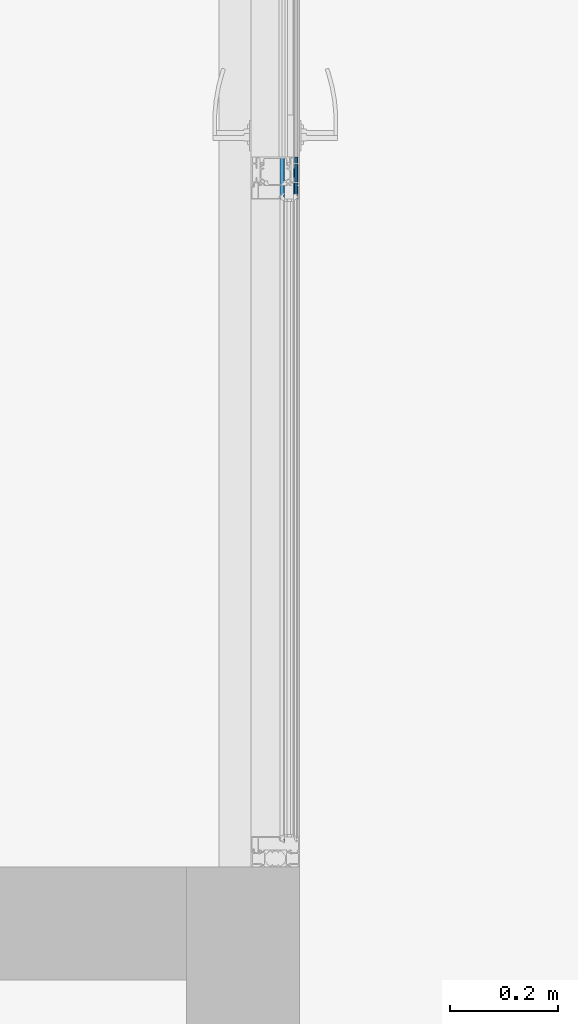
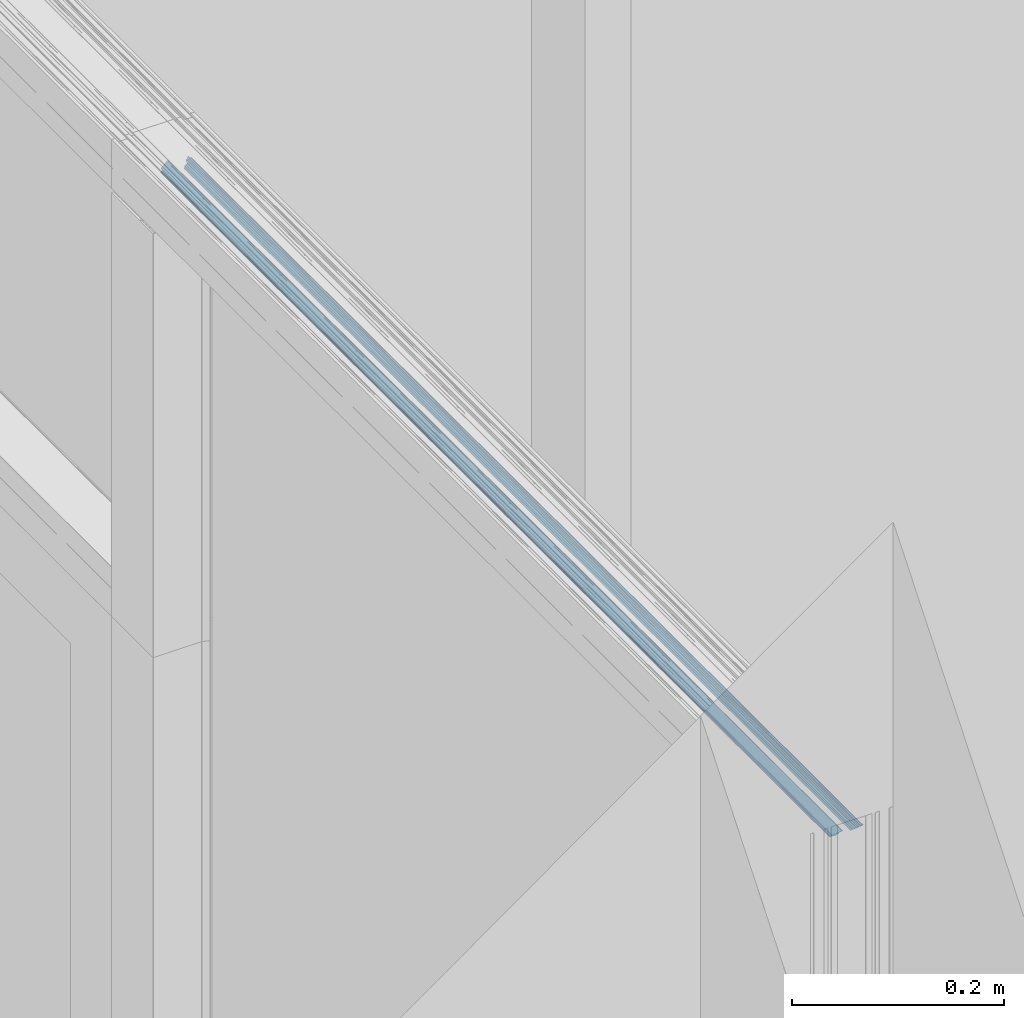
# One storey, part 39 of 62: 1 building element part, 2 elements without a shape of their own.
"""IFC2X3 building model written with IfcOpenShell, lengths in millimetres."""

from ifc_helpers import new_model, entity, si_unit, converted_unit, derived_unit, money_unit, direction, frame, origin_with_axes, place, context, subcontext, project, spatial, faceted_brep, material, type_object, element, aggregate, save


model = new_model("IFC2X3")

# Units and contexts
model_context = context("Model", 3, precision=0.01, world=origin_with_axes(), true_north=direction((0.0, 1.0)))
body_context = subcontext(model_context, "Body", "Model", "MODEL_VIEW")
ifc_project = project(units=[si_unit("LENGTHUNIT", "METRE", prefix="MILLI"), si_unit("AREAUNIT", "SQUARE_METRE"), si_unit("VOLUMEUNIT", "CUBIC_METRE"), converted_unit("PLANEANGLEUNIT", "DEGREE", entity("IfcPlaneAngleMeasure", 0.0174532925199), si_unit("PLANEANGLEUNIT", "RADIAN"), dimensions=[0, 0, 0, 0, 0, 0, 0]), si_unit("SOLIDANGLEUNIT", "STERADIAN"), money_unit("EUR"), converted_unit("TIMEUNIT", "Year", entity("IfcTimeMeasure", 31556926.0), si_unit("TIMEUNIT", "SECOND"), dimensions=[0, 0, 1, 0, 0, 0, 0]), si_unit("MASSUNIT", "GRAM", prefix="KILO"), si_unit("THERMODYNAMICTEMPERATUREUNIT", "DEGREE_CELSIUS"), si_unit("LUMINOUSINTENSITYUNIT", "LUMEN"), si_unit("ENERGYUNIT", "JOULE", prefix="MEGA"), derived_unit("THERMALCONDUCTANCEUNIT", [(si_unit("POWERUNIT", "WATT"), 1), (si_unit("LENGTHUNIT", "METRE"), -1), (si_unit("THERMODYNAMICTEMPERATUREUNIT", "KELVIN"), -1)]), derived_unit("SPECIFICHEATCAPACITYUNIT", [(si_unit("ENERGYUNIT", "JOULE"), 1), (si_unit("MASSUNIT", "GRAM", prefix="KILO"), -1), (si_unit("THERMODYNAMICTEMPERATUREUNIT", "KELVIN"), -1)]), derived_unit("MASSDENSITYUNIT", [(si_unit("MASSUNIT", "GRAM", prefix="KILO"), 1), (si_unit("VOLUMEUNIT", "CUBIC_METRE"), -1)])], contexts=[model_context])

# Site, building, storey
site_placement = place(None, origin_with_axes())
site = spatial("IfcSite", under=ifc_project, at=site_placement, Name="Puškini 31, Narva", CompositionType="ELEMENT")
building_placement = place(site_placement, origin_with_axes())
building = spatial("IfcBuilding", under=site, at=building_placement, Name="Narva Riigigümnaasium", CompositionType="ELEMENT")
storey_placement = place(building_placement, frame((0.0, 0.0, 660.0), z_axis=(0.0, 0.0, 1.0), x_axis=(1.0, 0.0, 0.0)))
storey = spatial("IfcBuildingStorey", under=building, at=storey_placement, Name="2.korrus +0.66", CompositionType="ELEMENT", Elevation=660.0)

# Curtain wall, member, building element part
curtain_wall_type = type_object("IfcCurtainWallType", Name="Curtain Wall Type", PredefinedType="NOTDEFINED")
curtain_wall_placement = place(storey_placement, frame((34855.0128096, 223200.000065, -2.45869393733e-05), z_axis=(0.0, 0.0, 1.0), x_axis=(1.0, 0.0, 0.0)))
curtain_wall = element("IfcCurtainWall", 1, at=curtain_wall_placement, inside=storey, type_object=curtain_wall_type, Name="G-SKLF-50")
member_type = type_object("IfcMemberType", Name="61 x 45", PredefinedType="MULLION")
member_placement = place(curtain_wall_placement, frame((-0.00823391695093, -1920.01202274, 2950.00000756), z_axis=(4.28847155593e-06, 0.999999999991, 1.29025933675e-08), x_axis=(0.0, 1.29025933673e-08, -1.0)))
member = element("IfcMember", 2, at=member_placement, type_object=member_type, Name="G-SKLF-54-raam", ObjectType="MULLION")
aggregate(curtain_wall, [member])
ifc_material = material(Name="Membraan - Veekindel")
building_element_part_placement = place(member_placement, origin_with_axes())
building_element_part = element("IfcBuildingElementPart", 3, at=building_element_part_placement, material=ifc_material, Name="Membraan - Veekindel", context=body_context, shape_type="Brep", body=[
    faceted_brep([(59.5800230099, -34.737947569, 59.5800207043), (61.0413392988, -34.3890442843, 61.0413369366), (61.0413555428, -34.3890442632, 1320.01202237), (59.5800392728, -34.7379475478, 1320.01202239), (58.475503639, -35.3628499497, 58.4755013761), (57.9693621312, -36.5265882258, 57.9693598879), (57.7000331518, -39.5999584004, 57.7000309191), (57.6464378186, -39.7999717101, 57.6464355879), (57.5000168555, -39.9463912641, 57.5000146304), (57.3000030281, -39.9999846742, 57.3000008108), (57.3000030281, -39.1999494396, 57.3000008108), (55.3000217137, -39.1999606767, 55.3000195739), (55.2330344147, -38.9499606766, 55.2330322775), (55.0500217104, -38.7669479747, 55.0500195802), (54.8000217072, -38.6999606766, 54.8000195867), (54.5500217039, -38.7669479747, 54.550019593), (54.3670089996, -38.9499606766, 54.3670068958), (54.3000217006, -39.1999606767, 54.3000195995), (54.3000217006, -40.4999366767, 54.3000195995), (54.3402140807, -40.6499366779, 54.340211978), (54.4500217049, -40.7597442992, 54.450019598), (54.6000217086, -40.7999366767, 54.6000195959), (54.7000180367, -40.7999366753, 54.70001592), (54.8666758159, -40.8504837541, 54.8666736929), (54.9771760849, -40.9850924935, 54.9771739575), (54.9942843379, -41.1584047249, 54.9942822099), (54.9122357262, -41.3120206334, 54.9122336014), (53.8716113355, -42.3533776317, 53.871609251), (53.7093565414, -42.4618547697, 53.7093544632), (53.5179335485, -42.4999486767, 53.5179314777), (51.8818850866, -42.4999486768, 51.8818830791), (51.6904317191, -42.4618421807, 51.6904297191), (51.5281608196, -42.3533311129, 51.5281588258), (50.4878089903, -41.3119729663, 50.4878070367), (50.4057856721, -41.1583618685, 50.4057837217), (50.4229065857, -40.9850671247, 50.4229046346), (50.5334032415, -40.8504763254, 50.5334012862), (50.7000463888, -40.7999366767, 50.700044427), (50.8000406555, -40.7999366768, 50.8000386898), (50.9500406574, -40.7597442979, 50.9500386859), (51.0598482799, -40.6499366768, 51.0598463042), (51.1000406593, -40.4999366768, 51.1000386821), (51.1000406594, -39.1999550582, 51.1000386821), (51.0330547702, -38.949954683, 51.0330527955), (50.8500431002, -38.7669409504, 50.8500411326), (50.6000434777, -38.6999522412, 50.6000415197), (50.3500430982, -38.7669381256, 50.35004115), (50.1670293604, -38.9499497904, 50.1670274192), (50.1000406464, -39.1999494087, 50.1000387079), (48.7206533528, -39.1999494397, 48.7206514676), (48.7206533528, -38.0023809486, 48.7206514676), (48.7876406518, -37.7523809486, 48.7876387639), (48.970653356, -37.5693682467, 48.9706514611), (49.2206533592, -37.5023809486, 49.2206514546), (50.3319759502, -37.5023809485, 50.3319740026), (50.5819759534, -37.4353936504, 50.5819739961), (50.7649886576, -37.2523809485, 50.7649866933), (51.1691338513, -36.5523809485, 51.1691318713), (51.3521465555, -36.3693682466, 51.3521445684), (51.6021465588, -36.3023809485, 51.602144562), (53.8391564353, -36.3023809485, 53.8391543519), (54.0891564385, -36.3693682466, 54.0891543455), (54.2721691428, -36.5523809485, 54.2721670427), (54.6763143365, -37.2523809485, 54.6763122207), (54.8593270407, -37.4353936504, 54.8593249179), (55.1093270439, -37.5023809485, 55.1093249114), (55.7607452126, -37.5023809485, 55.7607430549), (55.9795997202, -37.4519392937, 55.979597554), (56.1542966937, -37.3107917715, 56.1542945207), (56.2495881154, -37.1074172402, 56.2495859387), (56.9567952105, -35.6067920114, 56.9567930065), (58.234650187, -34.5489145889, 58.2346479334), (59.8409265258, -34.1343131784, 59.8409242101), (60.7381543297, -33.9217644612, 60.7381519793), (61.0108949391, -33.784859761, 61.010892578), (61.1423172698, -33.9681748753, 61.1423149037), (61.1536685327, -34.1934467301, 61.1536661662), (53.5000346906, -40.7999553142, 53.5000326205), (53.4330487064, -39.4499317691, 53.4330466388), (53.2500395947, -39.2669226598, 53.2500375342), (53.0000444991, -39.1999366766, 53.0000424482), (52.400017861, -39.1999366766, 52.4000158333), (52.1500227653, -39.2669226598, 52.1500207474), (51.9670136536, -39.449931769, 51.9670116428), (51.9000276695, -39.6999268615, 51.9000256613), (51.9000276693, -40.7999553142, 51.900025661), (51.9670124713, -41.0499459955, 51.9670104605), (52.1500183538, -41.2329518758, 52.1500163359), (52.4000090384, -41.2999366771, 52.4000070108), (53.0000533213, -41.2999366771, 53.0000512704), (53.2500440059, -41.2329518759, 53.2500419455), (53.4330498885, -41.0499459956, 53.433047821), (61.1536847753, -34.1934467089, 1320.01202237), (61.1423335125, -33.9681748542, 1320.01202237), (61.0109111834, -33.7848597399, 1320.01202237), (60.7381705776, -33.9217644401, 1320.01202237), (59.8409427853, -34.1343131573, 1320.01202238), (58.2346664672, -34.5489145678, 1320.01202241), (56.9568115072, -35.6067919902, 1320.01202242), (56.2496044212, -37.107417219, 1320.01202243), (56.1543130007, -37.3107917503, 1320.01202243), (55.9796160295, -37.4519392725, 1320.01202243), (55.7607615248, -37.5023809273, 1320.01202244), (55.1093433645, -37.5023809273, 1320.01202245), (54.8593433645, -37.4353936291, 1320.01202245), (54.6763306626, -37.2523809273, 1320.01202245), (54.2721854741, -36.5523809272, 1320.01202246), (54.0891727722, -36.3693682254, 1320.01202246), (53.8391727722, -36.3023809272, 1320.01202246), (51.6021629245, -36.3023809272, 1320.01202249), (51.3521629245, -36.3693682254, 1320.01202249), (51.1691502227, -36.5523809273, 1320.0120225), (50.7650050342, -37.2523809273, 1320.0120225), (50.5819923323, -37.4353936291, 1320.0120225), (50.3319923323, -37.5023809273, 1320.01202251), (49.2206697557, -37.5023809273, 1320.01202252), (48.9706697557, -37.5693682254, 1320.01202253), (48.7876570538, -37.7523809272, 1320.01202253), (48.7206697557, -38.0023809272, 1320.01202253), (48.7206697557, -39.1999494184, 1320.01202253), (50.1000570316, -39.1999493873, 1320.01202251), (50.1670457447, -38.9499497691, 1320.01202251), (50.3500594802, -38.7669381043, 1320.01202251), (50.6000598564, -38.6999522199, 1320.0120225), (50.8500594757, -38.7669409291, 1320.0120225), (51.0330711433, -38.9499546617, 1320.0120225), (51.1000570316, -39.1999550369, 1320.0120225), (51.1000570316, -40.4999366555, 1320.0120225), (51.0598646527, -40.6499366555, 1320.0120225), (50.9500570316, -40.7597442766, 1320.0120225), (50.8000570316, -40.7999366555, 1320.0120225), (50.7000627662, -40.7999366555, 1320.0120225), (50.5334196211, -40.8504763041, 1320.01202251), (50.4229229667, -40.9850671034, 1320.01202251), (50.4058020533, -41.1583618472, 1320.01202251), (50.4878253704, -41.311972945, 1320.01202251), (51.5281771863, -42.3533310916, 1320.01202249), (51.6904480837, -42.4618421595, 1320.01202249), (51.8819014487, -42.4999486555, 1320.01202249), (53.5179498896, -42.4999486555, 1320.01202247), (53.70937288, -42.4618547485, 1320.01202246), (53.871627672, -42.3533776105, 1320.01202246), (54.9122520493, -41.3120206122, 1320.01202245), (54.9943006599, -41.1584047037, 1320.01202245), (54.9771924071, -40.9850924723, 1320.01202245), (54.8666921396, -40.8504837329, 1320.01202245), (54.7000343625, -40.7999366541, 1320.01202245), (54.6000380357, -40.7999366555, 1320.01202245), (54.4500380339, -40.759744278, 1320.01202245), (54.3402304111, -40.6499366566, 1320.01202246), (54.3000380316, -40.4999366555, 1320.01202246), (54.3000380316, -39.1999606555, 1320.01202246), (54.3670253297, -38.9499606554, 1320.01202246), (54.5500380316, -38.7669479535, 1320.01202245), (54.8000380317, -38.6999606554, 1320.01202245), (55.0500380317, -38.7669479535, 1320.01202245), (55.2330507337, -38.9499606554, 1320.01202244), (55.3000380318, -39.1999606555, 1320.01202244), (57.3000193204, -39.1999494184, 1320.01202242), (57.3000193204, -39.999984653, 1320.01202242), (57.5000331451, -39.9463912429, 1320.01202242), (57.6464541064, -39.7999716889, 1320.01202241), (57.7000494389, -39.5999583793, 1320.01202241), (57.9693784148, -36.5265882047, 1320.01202241), (58.4755199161, -35.3628499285, 1320.0120224), (53.5000510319, -40.7999552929, 1320.01202247), (53.4330662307, -41.0499459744, 1320.01202247), (53.2500603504, -41.2329518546, 1320.01202247), (53.000069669, -41.2999366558, 1320.01202247), (52.4000253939, -41.2999366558, 1320.01202248), (52.1500347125, -41.2329518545, 1320.01202248), (51.9670288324, -41.0499459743, 1320.01202249), (51.9000440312, -40.7999552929, 1320.01202249), (51.9000440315, -39.6999268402, 1320.01202249), (51.9670300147, -39.4499317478, 1320.01202249), (52.150039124, -39.2669226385, 1320.01202248), (52.4000342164, -39.1999366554, 1320.01202248), (53.0000608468, -39.1999366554, 1320.01202247), (53.2500559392, -39.2669226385, 1320.01202247), (53.4330650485, -39.4499317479, 1320.01202247)], [[[0, 1, 2, 3]], [[1, 0, 4, 5, 6, 7, 8, 9, 10, 11, 12, 13, 14, 15, 16, 17, 18, 19, 20, 21, 22, 23, 24, 25, 26, 27, 28, 29, 30, 31, 32, 33, 34, 35, 36, 37, 38, 39, 40, 41, 42, 43, 44, 45, 46, 47, 48, 49, 50, 51, 52, 53, 54, 55, 56, 57, 58, 59, 60, 61, 62, 63, 64, 65, 66, 67, 68, 69, 70, 71, 72, 73, 74, 75, 76], [77, 78, 79, 80, 81, 82, 83, 84, 85, 86, 87, 88, 89, 90, 91]], [[1, 76, 92, 2]], [[2, 92, 93, 94, 95, 96, 97, 98, 99, 100, 101, 102, 103, 104, 105, 106, 107, 108, 109, 110, 111, 112, 113, 114, 115, 116, 117, 118, 119, 120, 121, 122, 123, 124, 125, 126, 127, 128, 129, 130, 131, 132, 133, 134, 135, 136, 137, 138, 139, 140, 141, 142, 143, 144, 145, 146, 147, 148, 149, 150, 151, 152, 153, 154, 155, 156, 157, 158, 159, 160, 161, 162, 163, 164, 3], [165, 166, 167, 168, 169, 170, 171, 172, 173, 174, 175, 176, 177, 178, 179]], [[4, 0, 3, 164]], [[5, 4, 164, 163]], [[6, 5, 163, 162]], [[7, 6, 162, 161]], [[8, 7, 161, 160]], [[9, 8, 160, 159]], [[10, 9, 159, 158]], [[11, 10, 158, 157]], [[12, 11, 157, 156]], [[13, 12, 156, 155]], [[14, 13, 155, 154]], [[15, 14, 154, 153]], [[16, 15, 153, 152]], [[17, 16, 152, 151]], [[18, 17, 151, 150]], [[19, 18, 150, 149]], [[20, 19, 149, 148]], [[21, 20, 148, 147]], [[22, 21, 147, 146]], [[23, 22, 146, 145]], [[24, 23, 145, 144]], [[25, 24, 144, 143]], [[26, 25, 143, 142]], [[27, 26, 142, 141]], [[28, 27, 141, 140]], [[29, 28, 140, 139]], [[30, 29, 139, 138]], [[31, 30, 138, 137]], [[32, 31, 137, 136]], [[33, 32, 136, 135]], [[34, 33, 135, 134]], [[35, 34, 134, 133]], [[36, 35, 133, 132]], [[37, 36, 132, 131]], [[38, 37, 131, 130]], [[39, 38, 130, 129]], [[40, 39, 129, 128]], [[41, 40, 128, 127]], [[42, 41, 127, 126]], [[43, 42, 126, 125]], [[44, 43, 125, 124]], [[45, 44, 124, 123]], [[46, 45, 123, 122]], [[47, 46, 122, 121]], [[48, 47, 121, 120]], [[49, 48, 120, 119]], [[50, 49, 119, 118]], [[51, 50, 118, 117]], [[52, 51, 117, 116]], [[53, 52, 116, 115]], [[54, 53, 115, 114]], [[55, 54, 114, 113]], [[56, 55, 113, 112]], [[57, 56, 112, 111]], [[58, 57, 111, 110]], [[59, 58, 110, 109]], [[60, 59, 109, 108]], [[61, 60, 108, 107]], [[62, 61, 107, 106]], [[63, 62, 106, 105]], [[64, 63, 105, 104]], [[65, 64, 104, 103]], [[66, 65, 103, 102]], [[67, 66, 102, 101]], [[68, 67, 101, 100]], [[69, 68, 100, 99]], [[70, 69, 99, 98]], [[71, 70, 98, 97]], [[72, 71, 97, 96]], [[73, 72, 96, 95]], [[74, 73, 95, 94]], [[75, 74, 94, 93]], [[76, 75, 93, 92]], [[78, 77, 165, 179]], [[79, 78, 179, 178]], [[80, 79, 178, 177]], [[81, 80, 177, 176]], [[82, 81, 176, 175]], [[83, 82, 175, 174]], [[84, 83, 174, 173]], [[85, 84, 173, 172]], [[86, 85, 172, 171]], [[87, 86, 171, 170]], [[88, 87, 170, 169]], [[89, 88, 169, 168]], [[90, 89, 168, 167]], [[91, 90, 167, 166]], [[77, 91, 166, 165]]]),
    faceted_brep([(55.9926722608, -16.8063498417, 55.9926700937), (59.0307122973, -16.554149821, 59.0307100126), (59.0307285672, -16.5541497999, 1320.0120224), (55.9926885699, -16.8063498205, 1320.01202243), (53.7899077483, -16.6230039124, 53.7899056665), (53.1225207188, -16.3483062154, 53.1225186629), (51.5205032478, -15.009958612, 51.5205012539), (51.3011772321, -14.8998814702, 51.3011752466), (51.0558931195, -14.9074036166, 51.0558911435), (50.8437243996, -15.03071344, 50.8437224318), (50.5537001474, -15.212117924, 50.5536981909), (46.2983077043, -16.7340705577, 46.2983059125), (45.9509669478, -16.7718696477, 45.9509651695), (45.6241935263, -16.6482027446, 45.6241917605), (45.3889083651, -16.3899097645, 45.3889066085), (45.3195232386, -16.2152275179, 45.3195214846), (45.3418974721, -15.7688623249, 45.3418957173), (45.6142076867, -15.4144760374, 45.6142059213), (51.8169224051, -8.74599822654, 51.8169203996), (51.9389446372, -8.63264469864, 51.9389426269), (52.1026317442, -8.60190419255, 52.1026297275), (52.2574652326, -8.66326410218, 52.25746321), (52.3556590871, -8.79778701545, 52.3556570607), (52.7761219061, -9.95299910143, 52.7761198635), (52.8859567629, -10.0961386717, 52.8859547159), (53.058029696, -10.1503930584, 53.0580276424), (55.1123581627, -10.1503930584, 55.1123560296), (55.2731266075, -10.1036784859, 55.2731244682), (55.3838268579, -9.97808311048, 55.3838247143), (55.4099834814, -9.81272116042, 55.4099813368), (55.2940492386, -8.85237785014, 55.2940470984), (55.3307339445, -8.72753828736, 55.330731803), (55.4168257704, -8.62997353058, 55.4168236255), (55.5361292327, -8.57803733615, 55.5361270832), (56.9361292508, -8.30590490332, 56.9361270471), (57.0661066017, -8.30934380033, 57.066104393), (57.1824212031, -8.36745448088, 57.1824189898), (57.2632240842, -8.46932121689, 57.2632218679), (57.5418660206, -10.0035930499, 57.5418637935), (59.3405119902, -15.0012955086, 59.3405096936), (59.500159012, -15.5494067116, 59.5001567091), (59.388466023, -16.1092618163, 59.3884637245), (59.3884822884, -16.1092617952, 1320.01202239), (59.5001752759, -15.5494066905, 1320.01202239), (59.3405282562, -15.0012954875, 1320.01202239), (57.5418823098, -10.0035930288, 1320.01202241), (57.263240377, -8.46932119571, 1320.01202242), (57.1824374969, -8.36745445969, 1320.01202242), (57.066122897, -8.30934377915, 1320.01202242), (56.9361455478, -8.30590488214, 1320.01202242), (55.5361455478, -8.57803731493, 1320.01202244), (55.416842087, -8.62997350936, 1320.01202244), (55.3307502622, -8.72753826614, 1320.01202244), (55.2940655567, -8.85237782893, 1320.01202244), (55.4099997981, -9.8127211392, 1320.01202244), (55.3838431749, -9.97808308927, 1320.01202244), (55.2731429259, -10.1036784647, 1320.01202244), (55.1123744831, -10.1503930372, 1320.01202245), (53.058046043, -10.1503930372, 1320.01202247), (52.8859731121, -10.0961386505, 1320.01202247), (52.7761382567, -9.95299908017, 1320.01202248), (52.3556754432, -8.79778699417, 1320.01202248), (52.2574815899, -8.66326408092, 1320.01202248), (52.1026481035, -8.60190417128, 1320.01202248), (51.9389609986, -8.63264467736, 1320.01202249), (51.8169387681, -8.74599820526, 1320.01202249), (45.6142241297, -15.414476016, 1320.01202257), (45.3419139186, -15.7688623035, 1320.01202257), (45.3195396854, -16.2152274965, 1320.01202257), (45.3889248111, -16.3899097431, 1320.01202257), (45.6242099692, -16.6482027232, 1320.01202257), (45.9509833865, -16.7718696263, 1320.01202256), (46.2983241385, -16.7340705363, 1320.01202256), (50.5537165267, -15.2121179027, 1320.0120225), (50.8437407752, -15.0307134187, 1320.0120225), (51.0559094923, -14.9074035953, 1320.0120225), (51.3011936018, -14.899881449, 1320.01202249), (51.5205196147, -15.0099585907, 1320.01202249), (53.122537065, -16.3483061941, 1320.01202247), (53.7899240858, -16.6230038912, 1320.01202246)], [[[0, 1, 2, 3]], [[1, 0, 4, 5, 6, 7, 8, 9, 10, 11, 12, 13, 14, 15, 16, 17, 18, 19, 20, 21, 22, 23, 24, 25, 26, 27, 28, 29, 30, 31, 32, 33, 34, 35, 36, 37, 38, 39, 40, 41]], [[1, 41, 42, 2]], [[2, 42, 43, 44, 45, 46, 47, 48, 49, 50, 51, 52, 53, 54, 55, 56, 57, 58, 59, 60, 61, 62, 63, 64, 65, 66, 67, 68, 69, 70, 71, 72, 73, 74, 75, 76, 77, 78, 79, 3]], [[4, 0, 3, 79]], [[5, 4, 79, 78]], [[6, 5, 78, 77]], [[7, 6, 77, 76]], [[8, 7, 76, 75]], [[9, 8, 75, 74]], [[10, 9, 74, 73]], [[11, 10, 73, 72]], [[12, 11, 72, 71]], [[13, 12, 71, 70]], [[14, 13, 70, 69]], [[15, 14, 69, 68]], [[16, 15, 68, 67]], [[17, 16, 67, 66]], [[18, 17, 66, 65]], [[19, 18, 65, 64]], [[20, 19, 64, 63]], [[21, 20, 63, 62]], [[22, 21, 62, 61]], [[23, 22, 61, 60]], [[24, 23, 60, 59]], [[25, 24, 59, 58]], [[26, 25, 58, 57]], [[27, 26, 57, 56]], [[28, 27, 56, 55]], [[29, 28, 55, 54]], [[30, 29, 54, 53]], [[31, 30, 53, 52]], [[32, 31, 52, 51]], [[33, 32, 51, 50]], [[34, 33, 50, 49]], [[35, 34, 49, 48]], [[36, 35, 48, 47]], [[37, 36, 47, 46]], [[38, 37, 46, 45]], [[39, 38, 45, 44]], [[40, 39, 44, 43]], [[41, 40, 43, 42]]]),
])
aggregate(member, [building_element_part])

save(model, "model.ifc")
